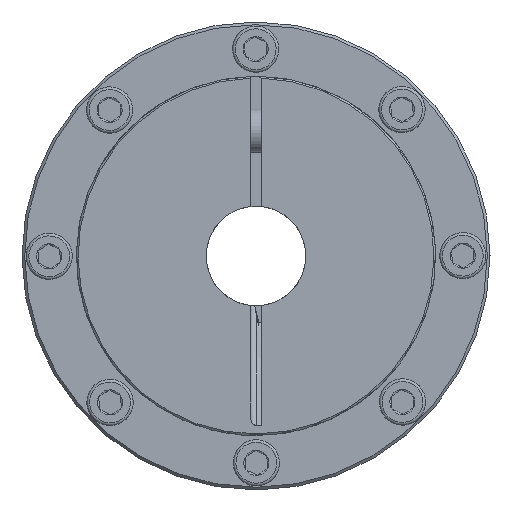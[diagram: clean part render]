
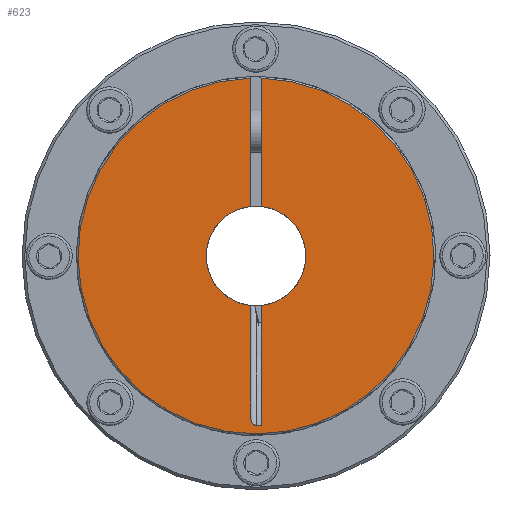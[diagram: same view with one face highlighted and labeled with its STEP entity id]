
A CAD part, left-side view. The second image highlights one B-rep face of the part: STEP entity #623.
In plain terms, the highlighted planar face has unit normal (-1, 0, 0) as drawn and (0, 0, 1) by its records, which use the part's own axes.
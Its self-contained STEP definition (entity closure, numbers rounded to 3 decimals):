
#623 = ADVANCED_FACE( 'NONE', ( #1257 ), #1258, .T. );
#1257 = FACE_OUTER_BOUND( '', #1984, .T. );
#1258 = PLANE( '', #1985 );
#1984 = EDGE_LOOP( '', ( #2952, #2953, #2954, #2955, #2956, #2957, #2958, #2959, #2960 ) );
#1985 = AXIS2_PLACEMENT_3D( '', #2961, #2962, #2963 );
#2952 = ORIENTED_EDGE( '', *, *, #3922, .F. );
#2953 = ORIENTED_EDGE( '', *, *, #3923, .F. );
#2954 = ORIENTED_EDGE( '', *, *, #3924, .T. );
#2955 = ORIENTED_EDGE( '', *, *, #3925, .T. );
#2956 = ORIENTED_EDGE( '', *, *, #3926, .F. );
#2957 = ORIENTED_EDGE( '', *, *, #3715, .T. );
#2958 = ORIENTED_EDGE( '', *, *, #3680, .F. );
#2959 = ORIENTED_EDGE( '', *, *, #3927, .T. );
#2960 = ORIENTED_EDGE( '', *, *, #3928, .F. );
#2961 = CARTESIAN_POINT( '', ( 0., 0., 24. ) );
#2962 = DIRECTION( '', ( 0., 0., 1. ) );
#2963 = DIRECTION( '', ( 1., 0., 0. ) );
#3680 = EDGE_CURVE( 'NONE', #4168, #4170, #4171, .F. );
#3715 = EDGE_CURVE( '', #4226, #4170, #4229, .T. );
#3922 = EDGE_CURVE( '', #4555, #4556, #4557, .T. );
#3923 = EDGE_CURVE( 'NONE', #4558, #4555, #4559, .T. );
#3924 = EDGE_CURVE( 'NONE', #4558, #4560, #4561, .T. );
#3925 = EDGE_CURVE( 'NONE', #4560, #4562, #4563, .T. );
#3926 = EDGE_CURVE( '', #4226, #4562, #4564, .T. );
#3927 = EDGE_CURVE( 'NONE', #4168, #4565, #4566, .T. );
#3928 = EDGE_CURVE( '', #4556, #4565, #4567, .F. );
#4168 = VERTEX_POINT( 'NONE', #4875 );
#4170 = VERTEX_POINT( 'NONE', #4877 );
#4171 = LINE( '', #4878, #4879 );
#4226 = VERTEX_POINT( '', #4935 );
#4229 = LINE( '', #4940, #4941 );
#4555 = VERTEX_POINT( '', #5435 );
#4556 = VERTEX_POINT( '', #5436 );
#4557 = CIRCLE( '', #5437, 9.154 );
#4558 = VERTEX_POINT( 'NONE', #5438 );
#4559 = LINE( '', #5439, #5440 );
#4560 = VERTEX_POINT( 'NONE', #5441 );
#4561 = CIRCLE( '', #5442, 32.7 );
#4562 = VERTEX_POINT( '', #5443 );
#4563 = LINE( '', #5444, #5445 );
#4564 = CIRCLE( '', #5446, 9.154 );
#4565 = VERTEX_POINT( 'NONE', #5447 );
#4566 = B_SPLINE_CURVE_WITH_KNOTS( '', 3, ( #5448, #5449, #5450, #5451, #5452, #5453, #5454, #5455, #5456, #5457 ), .UNSPECIFIED., .F., .F., ( 4, 2, 2, 2, 4 ), ( 0., 0., 0.001, 0.001, 0.002 ), .UNSPECIFIED. );
#4567 = LINE( '', #5458, #5459 );
#4875 = CARTESIAN_POINT( '', ( -31.103, 0., 24. ) );
#4877 = CARTESIAN_POINT( '', ( -31.103, -1., 24. ) );
#4878 = CARTESIAN_POINT( '', ( -31.103, -1., 24. ) );
#4879 = VECTOR( '', #5846, 1000. );
#4935 = CARTESIAN_POINT( '', ( -9.1, -1., 24. ) );
#4940 = CARTESIAN_POINT( '', ( 0., -1., 24. ) );
#4941 = VECTOR( '', #5916, 1000. );
#5435 = CARTESIAN_POINT( '', ( 9.1, 1., 24. ) );
#5436 = CARTESIAN_POINT( '', ( -9.1, 1., 24. ) );
#5437 = AXIS2_PLACEMENT_3D( '', #6237, #6238, #6239 );
#5438 = CARTESIAN_POINT( '', ( 32.685, 1., 24. ) );
#5439 = CARTESIAN_POINT( '', ( 47.109, 1., 24. ) );
#5440 = VECTOR( '', #6240, 1000. );
#5441 = CARTESIAN_POINT( '', ( 32.685, -1., 24. ) );
#5442 = AXIS2_PLACEMENT_3D( '', #6241, #6242, #6243 );
#5443 = CARTESIAN_POINT( '', ( 9.1, -1., 24. ) );
#5444 = CARTESIAN_POINT( '', ( 0., -1., 24. ) );
#5445 = VECTOR( '', #6244, 1000. );
#5446 = AXIS2_PLACEMENT_3D( '', #6245, #6246, #6247 );
#5447 = CARTESIAN_POINT( '', ( -29.782, 1., 24. ) );
#5448 = CARTESIAN_POINT( '', ( -31.103, 0., 24. ) );
#5449 = CARTESIAN_POINT( '', ( -31.103, 0.155, 24. ) );
#5450 = CARTESIAN_POINT( '', ( -31.054, 0.305, 24. ) );
#5451 = CARTESIAN_POINT( '', ( -30.932, 0.498, 24. ) );
#5452 = CARTESIAN_POINT( '', ( -30.882, 0.558, 24. ) );
#5453 = CARTESIAN_POINT( '', ( -30.774, 0.665, 24. ) );
#5454 = CARTESIAN_POINT( '', ( -30.714, 0.712, 24. ) );
#5455 = CARTESIAN_POINT( '', ( -30.394, 0.924, 24. ) );
#5456 = CARTESIAN_POINT( '', ( -30.089, 1., 24. ) );
#5457 = CARTESIAN_POINT( '', ( -29.782, 1., 24. ) );
#5458 = CARTESIAN_POINT( '', ( 16.5, 1., 24. ) );
#5459 = VECTOR( '', #6248, 1000. );
#5846 = DIRECTION( '', ( 0., 1., 0. ) );
#5916 = DIRECTION( '', ( -1., 0., 0. ) );
#6237 = CARTESIAN_POINT( '', ( 0., 0., 24. ) );
#6238 = DIRECTION( '', ( 0., 0., 1. ) );
#6239 = DIRECTION( '', ( 1., 0., 0. ) );
#6240 = DIRECTION( '', ( -1., 0., 0. ) );
#6241 = CARTESIAN_POINT( '', ( 0., 0., 24. ) );
#6242 = DIRECTION( '', ( 0., 0., 1. ) );
#6243 = DIRECTION( '', ( 1., 0., 0. ) );
#6244 = DIRECTION( '', ( -1., 0., 0. ) );
#6245 = CARTESIAN_POINT( '', ( 0., 0., 24. ) );
#6246 = DIRECTION( '', ( 0., 0., 1. ) );
#6247 = DIRECTION( '', ( 1., 0., 0. ) );
#6248 = DIRECTION( '', ( 1., 0., 0. ) );
